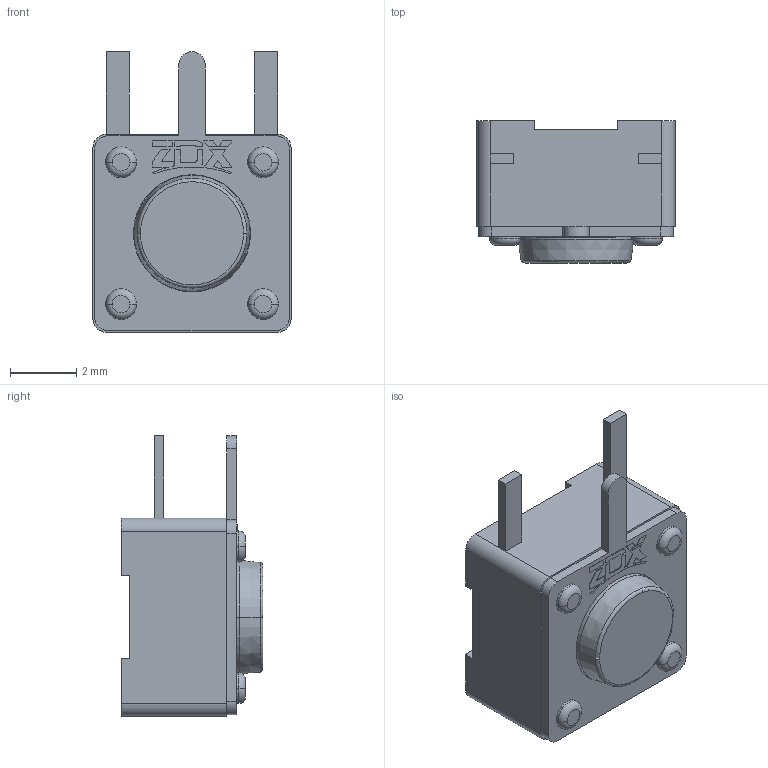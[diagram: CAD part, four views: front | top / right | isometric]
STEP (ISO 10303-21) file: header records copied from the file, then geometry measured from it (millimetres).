
FILE_DESCRIPTION((''),'2;1');
FILE_NAME('ASM0004_ASM','2024-01-06T',('WYH'),(''),'PRO/ENGINEER BY PARAMETRIC TECHNOLOGY CORPORATION, 2013040','PRO/ENGINEER BY PARAMETRIC TECHNOLOGY CORPORATION, 2013040','');
FILE_SCHEMA(('CONFIG_CONTROL_DESIGN'));
Length unit declared in the file: millimetre
Products named in the file (1): ASM0004_ASM
Bounding box: 6 x 4.3 x 8.5 mm (x, y, z)
Volume: 127.9 mm3; surface area: 239.5 mm2
Topology: 2 solids, 2 shells, 137 faces, 374 edges, 252 vertices
Faces by surface type: plane 91, cylinder 34, torus 10, cone 2
Entity records: 4413 total; most frequent: CARTESIAN_POINT 776, DIRECTION 758, ORIENTED_EDGE 748, EDGE_CURVE 374, VECTOR 260, LINE 260, VERTEX_POINT 252, AXIS2_PLACEMENT_3D 249
